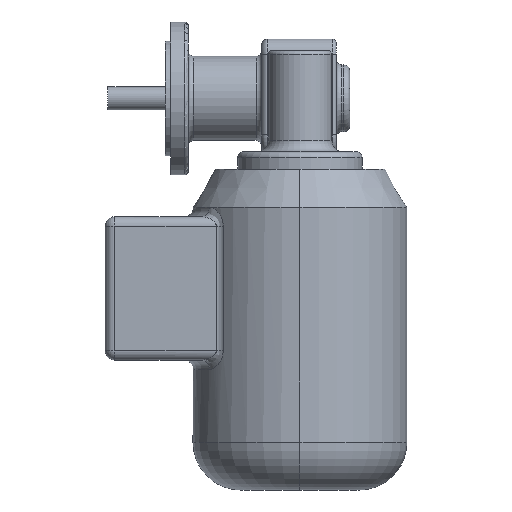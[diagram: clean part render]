
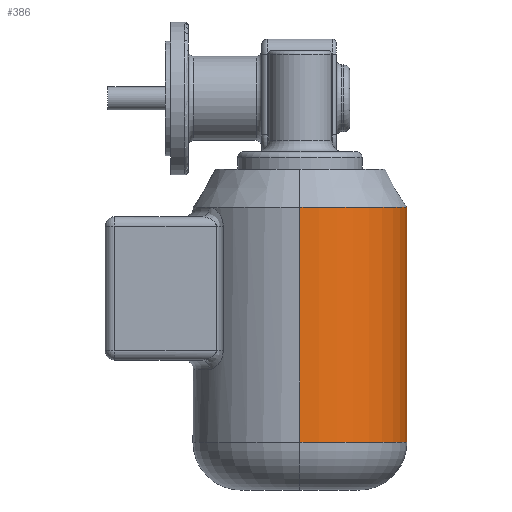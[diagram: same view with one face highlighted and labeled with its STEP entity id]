
A CAD part, front view. The second image highlights one B-rep face of the part: STEP entity #386.
In plain terms, the highlighted cylindrical face has radius 56 mm (diameter 112 mm), a partial arc.
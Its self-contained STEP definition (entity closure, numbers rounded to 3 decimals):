
#323 = ORIENTED_EDGE ( 'NONE', *, *, #385, .T. ) ;
#324 = ORIENTED_EDGE ( 'NONE', *, *, #325, .T. ) ;
#325 = EDGE_CURVE ( 'NONE', #346, #430, #2342, .T. ) ;
#346 = VERTEX_POINT ( 'NONE', #2358 ) ;
#385 = EDGE_CURVE ( 'NONE', #415, #346, #2432, .T. ) ;
#386 = ADVANCED_FACE ( 'NONE', ( #2428 ), #2427, .T. ) ;
#387 = EDGE_LOOP ( 'NONE', ( #388, #389, #323, #324 ) ) ;
#388 = ORIENTED_EDGE ( 'NONE', *, *, #422, .F. ) ;
#389 = ORIENTED_EDGE ( 'NONE', *, *, #390, .T. ) ;
#390 = EDGE_CURVE ( 'NONE', #412, #415, #2466, .T. ) ;
#412 = VERTEX_POINT ( 'NONE', #2522 ) ;
#415 = VERTEX_POINT ( 'NONE', #2583 ) ;
#422 = EDGE_CURVE ( 'NONE', #412, #430, #2575, .T. ) ;
#430 = VERTEX_POINT ( 'NONE', #2088 ) ;
#2088 = CARTESIAN_POINT ( 'NONE',  ( 0., 57.107, -20. ) ) ;
#2338 = DIRECTION ( 'NONE',  ( 0., -1., 0. ) ) ;
#2339 = DIRECTION ( 'NONE',  ( 0., 0., -1. ) ) ;
#2340 = CARTESIAN_POINT ( 'NONE',  ( 0., 1.107, -20. ) ) ;
#2341 = AXIS2_PLACEMENT_3D ( 'NONE', #2340, #2339, #2338 ) ;
#2342 = CIRCLE ( 'NONE', #2341, 56. ) ;
#2358 = CARTESIAN_POINT ( 'NONE',  ( 0., -54.893, -20. ) ) ;
#2426 = AXIS2_PLACEMENT_3D ( 'NONE', #2469, #2468, #2467 ) ;
#2427 = CYLINDRICAL_SURFACE ( 'NONE', #2426, 56. ) ;
#2428 = FACE_OUTER_BOUND ( 'NONE', #387, .T. ) ;
#2429 = DIRECTION ( 'NONE',  ( 0., 0., 1. ) ) ;
#2430 = VECTOR ( 'NONE', #2429, 1000. ) ;
#2431 = CARTESIAN_POINT ( 'NONE',  ( 0., -54.893, -168. ) ) ;
#2432 = LINE ( 'NONE', #2431, #2430 ) ;
#2463 = DIRECTION ( 'NONE',  ( 0., -1., 0. ) ) ;
#2464 = DIRECTION ( 'NONE',  ( 0., 0., 1. ) ) ;
#2465 = AXIS2_PLACEMENT_3D ( 'NONE', #2470, #2464, #2463 ) ;
#2466 = CIRCLE ( 'NONE', #2465, 56. ) ;
#2467 = DIRECTION ( 'NONE',  ( 0., -1., 0. ) ) ;
#2468 = DIRECTION ( 'NONE',  ( 0., 0., 1. ) ) ;
#2469 = CARTESIAN_POINT ( 'NONE',  ( 0., 1.107, -168. ) ) ;
#2470 = CARTESIAN_POINT ( 'NONE',  ( 0., 1.107, -143. ) ) ;
#2522 = CARTESIAN_POINT ( 'NONE',  ( 0., 57.107, -143. ) ) ;
#2568 = DIRECTION ( 'NONE',  ( 0., 0., 1. ) ) ;
#2569 = VECTOR ( 'NONE', #2568, 1000. ) ;
#2570 = CARTESIAN_POINT ( 'NONE',  ( 0., 57.107, -168. ) ) ;
#2575 = LINE ( 'NONE', #2570, #2569 ) ;
#2583 = CARTESIAN_POINT ( 'NONE',  ( 0., -54.893, -143. ) ) ;
